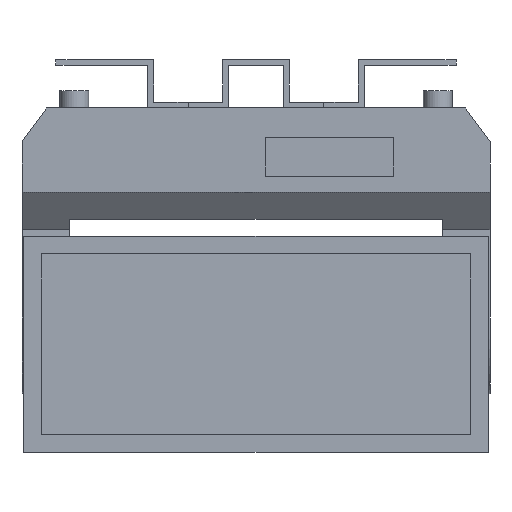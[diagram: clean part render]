
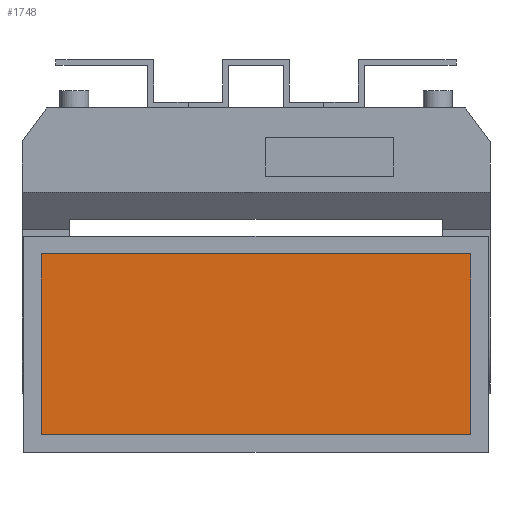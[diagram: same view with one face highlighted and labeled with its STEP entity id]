
A CAD part, front view. The second image highlights one B-rep face of the part: STEP entity #1748.
In plain terms, the highlighted planar face has unit normal (0, -1, 0) as drawn and (0, 1, 0) by its records, which use the part's own axes.
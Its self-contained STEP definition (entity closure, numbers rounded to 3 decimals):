
#145=FACE_OUTER_BOUND('',#249,.T.);
#249=EDGE_LOOP('',(#1303,#1304,#1305,#1306));
#386=LINE('',#2716,#595);
#387=LINE('',#2718,#596);
#388=LINE('',#2720,#597);
#389=LINE('',#2721,#598);
#595=VECTOR('',#2228,10.);
#596=VECTOR('',#2229,10.);
#597=VECTOR('',#2230,10.);
#598=VECTOR('',#2231,10.);
#794=VERTEX_POINT('',#2714);
#795=VERTEX_POINT('',#2715);
#796=VERTEX_POINT('',#2717);
#797=VERTEX_POINT('',#2719);
#982=EDGE_CURVE('',#794,#795,#386,.T.);
#983=EDGE_CURVE('',#796,#794,#387,.T.);
#984=EDGE_CURVE('',#797,#796,#388,.T.);
#985=EDGE_CURVE('',#795,#797,#389,.T.);
#1303=ORIENTED_EDGE('',*,*,#982,.F.);
#1304=ORIENTED_EDGE('',*,*,#983,.F.);
#1305=ORIENTED_EDGE('',*,*,#984,.F.);
#1306=ORIENTED_EDGE('',*,*,#985,.F.);
#1660=PLANE('',#1970);
#1748=ADVANCED_FACE('',(#145),#1660,.T.);
#1970=AXIS2_PLACEMENT_3D('',#2713,#2226,#2227);
#2226=DIRECTION('center_axis',(0.,1.,0.));
#2227=DIRECTION('ref_axis',(-1.,0.,0.));
#2228=DIRECTION('',(-1.,0.,0.));
#2229=DIRECTION('',(0.,0.,1.));
#2230=DIRECTION('',(1.,0.,0.));
#2231=DIRECTION('',(0.,0.,-1.));
#2713=CARTESIAN_POINT('Origin',(0.,85.7,-205.5));
#2714=CARTESIAN_POINT('',(186.606,85.7,-126.894));
#2715=CARTESIAN_POINT('',(-186.606,85.7,-126.894));
#2716=CARTESIAN_POINT('',(181.113,85.7,-126.894));
#2717=CARTESIAN_POINT('',(186.606,85.7,-284.106));
#2718=CARTESIAN_POINT('',(186.606,85.7,-278.613));
#2719=CARTESIAN_POINT('',(-186.606,85.7,-284.106));
#2720=CARTESIAN_POINT('',(-181.113,85.7,-284.106));
#2721=CARTESIAN_POINT('',(-186.606,85.7,-132.387));
